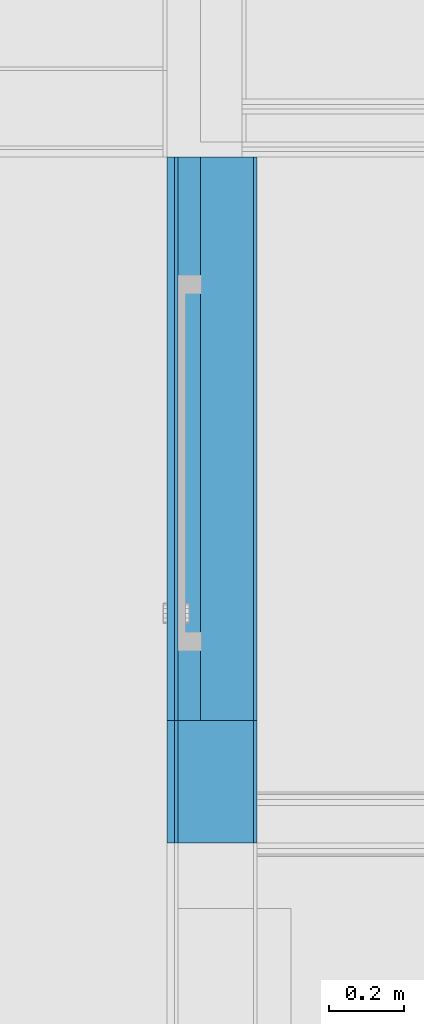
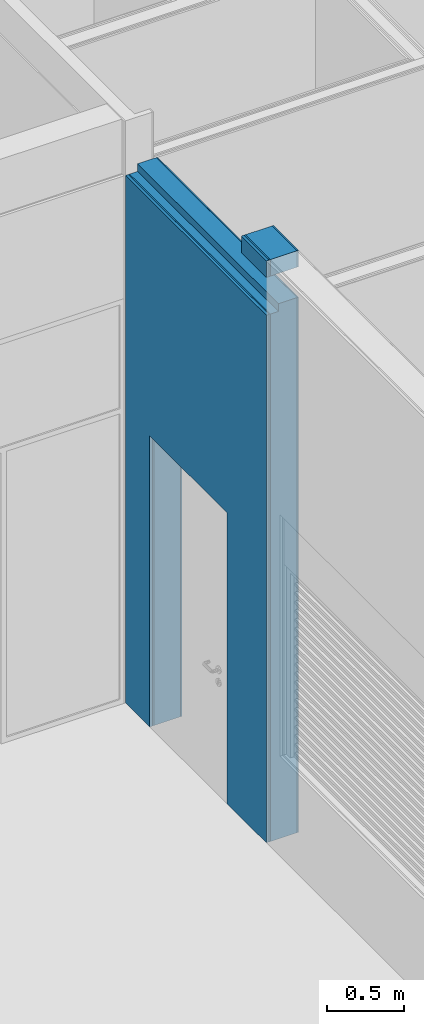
# One storey, part 188 of 260: 4 building element parts, 1 opening, 1 element without a shape of its own.
"""IFC2X3 building model written with IfcOpenShell, lengths in millimetres."""

from ifc_helpers import new_model, entity, si_unit, converted_unit, derived_unit, money_unit, direction, frame, origin_with_axes, place, context, subcontext, project, spatial, faceted_brep, material, type_object, element, aggregate, save


model = new_model("IFC2X3")

# Units and contexts
model_context = context("Model", 3, precision=0.01, world=origin_with_axes(), true_north=direction((0.0, 1.0)))
body_context = subcontext(model_context, "Body", "Model", "MODEL_VIEW")
ifc_project = project(units=[si_unit("LENGTHUNIT", "METRE", prefix="MILLI"), si_unit("AREAUNIT", "SQUARE_METRE"), si_unit("VOLUMEUNIT", "CUBIC_METRE"), converted_unit("PLANEANGLEUNIT", "DEGREE", entity("IfcPlaneAngleMeasure", 0.0174532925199), si_unit("PLANEANGLEUNIT", "RADIAN"), dimensions=[0, 0, 0, 0, 0, 0, 0]), money_unit("EUR"), converted_unit("TIMEUNIT", "Year", entity("IfcTimeMeasure", 31556926.0), si_unit("TIMEUNIT", "SECOND"), dimensions=[0, 0, 1, 0, 0, 0, 0]), si_unit("MASSUNIT", "GRAM", prefix="KILO"), si_unit("THERMODYNAMICTEMPERATUREUNIT", "DEGREE_CELSIUS"), si_unit("LUMINOUSINTENSITYUNIT", "LUMEN"), si_unit("ENERGYUNIT", "JOULE", prefix="MEGA"), derived_unit("THERMALCONDUCTANCEUNIT", [(si_unit("POWERUNIT", "WATT"), 1), (si_unit("LENGTHUNIT", "METRE"), -1), (si_unit("THERMODYNAMICTEMPERATUREUNIT", "KELVIN"), -1)]), derived_unit("SPECIFICHEATCAPACITYUNIT", [(si_unit("ENERGYUNIT", "JOULE"), 1), (si_unit("MASSUNIT", "GRAM", prefix="KILO"), -1), (si_unit("THERMODYNAMICTEMPERATUREUNIT", "KELVIN"), -1)]), derived_unit("MASSDENSITYUNIT", [(si_unit("MASSUNIT", "GRAM", prefix="KILO"), 1), (si_unit("VOLUMEUNIT", "CUBIC_METRE"), -1)])], contexts=[model_context])

# Site, building, storey
site_placement = place(None, origin_with_axes())
site = spatial("IfcSite", under=ifc_project, at=site_placement, Name="Kolde pst 67a", CompositionType="ELEMENT")
building_placement = place(site_placement, origin_with_axes())
building = spatial("IfcBuilding", under=site, at=building_placement, Name="Riigigümnaasium", CompositionType="ELEMENT")
storey_placement = place(building_placement, origin_with_axes())
storey = spatial("IfcBuildingStorey", under=building, at=storey_placement, Name="1. korrus", CompositionType="ELEMENT", Elevation=0.0)

# Wall, opening, building element parts
wall_type = type_object("IfcWallType", Name="SS-RB-20/3_+krohv+dold 240", PredefinedType="NOTDEFINED")
wall_placement = place(storey_placement, frame((52829.9941222, 52580.0001843, 0.0), z_axis=(0.0, 0.0, 1.0), x_axis=(0.0, -1.0, 0.0)))
wall = element("IfcWall", 1, at=wall_placement, inside=storey, type_object=wall_type, Name="Sisesein")
opening_placement = place(wall_placement, frame((814.049788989, 0.0, 0.0), z_axis=(0.0, 0.0, 1.0), x_axis=(1.0, 0.0, 0.0)))
element("IfcOpeningElement", 2, at=opening_placement, cuts=wall, Name="Siseuks", context=body_context, shape_type="Brep", body=[
    faceted_brep([(-500.0, 240.0, 2300.0), (-500.0, 240.0, 0.0), (-500.0, -480.0, 0.0), (-500.0, -480.0, 2300.0), (500.0, 240.0, 2300.0), (500.0, 240.0, 0.0), (500.0, -480.0, 0.0), (500.0, -480.0, 2300.0)], [[[0, 1, 2, 3]], [[0, 4, 5, 1]], [[1, 5, 6, 2]], [[3, 2, 6, 7]], [[4, 0, 3, 7]], [[5, 4, 7, 6]]]),
])
ifc_material_1 = material(Name="_VIIMISTLUSKIHT - viimistlus vastavalt SA osale")
building_element_part_1_placement = place(wall_placement, origin_with_axes())
building_element_part_1 = element("IfcBuildingElementPart", 3, at=building_element_part_1_placement, material=ifc_material_1, Name="_VIIMISTLUSKIHT - viimistlus vastavalt SA osale", context=body_context, shape_type="Brep", body=[
    faceted_brep([(1824.99980569, 0.0, 4470.0), (1684.99980569, 0.0, 4470.0), (1684.99980569, 0.0, 4597.0), (1500.0, 0.0, 4597.0), (1500.0, 0.0, 4600.0), (1824.99980569, 0.0, 4600.0), (1684.99980569, -10.0, 4470.0), (1824.99980569, -10.0, 4470.0), (1684.99980569, -10.0, 4597.0), (1500.0, -10.0, 4597.0), (1500.0, -10.0, 4600.0), (1824.99980569, -10.0, 4600.0)], [[[0, 1, 2, 3, 4, 5]], [[6, 1, 0, 7]], [[1, 6, 8, 2]], [[9, 3, 2, 8]], [[3, 9, 10, 4]], [[4, 10, 11, 5]], [[7, 0, 5, 11]], [[6, 7, 11, 10, 9, 8]]]),
    faceted_brep([(0.0, -10.0, 4230.0), (0.0, 0.0, 4230.0), (0.0, 0.0, 0.0), (0.0, -10.0, 0.0), (1824.99980569, 0.0, 4230.0), (1824.99980569, -10.0, 4230.0), (1824.99980569, 0.0, 0.0), (1314.04978899, 0.0, 0.0), (1314.04978899, 0.0, 2300.0), (314.049788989, 0.0, 2300.0), (314.049788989, 0.0, 0.0), (314.049788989, -10.0, 0.0), (314.049788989, -10.0, 2300.0), (1314.04978899, -10.0, 2300.0), (1314.04978899, -10.0, 0.0), (1824.99980569, -10.0, 0.0)], [[[0, 1, 2, 3]], [[4, 1, 0, 5]], [[1, 4, 6, 7, 8, 9, 10, 2]], [[3, 2, 10, 11]], [[5, 0, 3, 11, 12, 13, 14, 15]], [[4, 5, 15, 6]], [[6, 15, 14, 7]], [[14, 13, 8, 7]], [[13, 12, 9, 8]], [[12, 11, 10, 9]]]),
])
ifc_material_2 = material(Name="_KANDETARIND - monteeritav raudbetoon vastavalt EK osale")
building_element_part_2_placement = place(wall_placement, origin_with_axes())
building_element_part_2 = element("IfcBuildingElementPart", 4, at=building_element_part_2_placement, material=ifc_material_2, Name="_KANDETARIND - monteeritav raudbetoon vastavalt EK osale", context=body_context, shape_type="Brep", body=[
    faceted_brep([(1824.99980569, -10.0, 4470.0), (1684.99980569, -10.0, 4470.0), (1684.99980569, -10.0, 4597.0), (1500.0, -10.0, 4597.0), (1500.0, -10.0, 4600.0), (1824.99980569, -10.0, 4600.0), (1500.0, -149.999999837, 4470.0), (1500.0, -80.0, 4470.0), (1684.99980569, -80.0, 4470.0), (1824.99980569, -149.999999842, 4470.0), (1824.99980569, -210.0, 4470.0), (1500.0, -210.0, 4470.0), (1684.99980569, -80.0, 4597.0), (1500.0, -80.0, 4597.0), (1500.0, -210.0, 4600.0), (1824.99980569, -210.0, 4600.0)], [[[0, 1, 2, 3, 4, 5]], [[6, 7, 8, 1, 0, 9, 10, 11]], [[1, 8, 12, 2]], [[13, 3, 2, 12]], [[7, 6, 11, 14, 4, 3, 13]], [[4, 14, 15, 5]], [[9, 0, 5, 15, 10]], [[8, 7, 13, 12]], [[14, 11, 10, 15]]]),
    faceted_brep([(0.0, -149.999999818, 4230.0), (0.0, -10.0, 4230.0), (0.0, -10.0, 0.0), (0.0, -210.0, 0.0), (0.0, -210.0, 4170.0), (0.0, -149.999999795, 4170.0), (1824.99980569, -10.0, 4230.0), (1824.99980569, -149.999999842, 4230.0), (1824.99980569, -10.0, 0.0), (1314.04978899, -10.0, 0.0), (1314.04978899, -10.0, 2300.0), (314.049788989, -10.0, 2300.0), (314.049788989, -10.0, 0.0), (314.049788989, -210.0, 0.0), (1824.99980569, -210.0, 0.0), (1824.99980569, -210.0, 4170.0), (314.049788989, -210.0, 2300.0), (1314.04978899, -210.0, 2300.0), (1314.04978899, -210.0, 0.0), (1824.99980569, -149.99999847, 4170.0)], [[[0, 1, 2, 3, 4, 5]], [[6, 1, 0, 7]], [[1, 6, 8, 9, 10, 11, 12, 2]], [[13, 3, 2, 12]], [[14, 15, 4, 3, 13, 16, 17, 18]], [[19, 5, 4, 15]], [[7, 0, 5, 19]], [[6, 7, 19, 15, 14, 8]], [[9, 8, 14, 18]], [[9, 18, 17, 10]], [[10, 17, 16, 11]], [[11, 16, 13, 12]]]),
])
ifc_material_3 = material(Name="_KARKASS - eriprofiilkinnitus vastavalt sisemisele plaatviimistlusele")
building_element_part_3_placement = place(wall_placement, origin_with_axes())
building_element_part_3 = element("IfcBuildingElementPart", 5, at=building_element_part_3_placement, material=ifc_material_3, Name="_KARKASS - eriprofiilkinnitus vastavalt sisemisele plaatviimistlusele", context=body_context, shape_type="Brep", body=[
    faceted_brep([(1824.99980569, -210.0, 4470.0), (1500.0, -210.0, 4470.0), (1500.0, -210.0, 4600.0), (1824.99980569, -210.0, 4600.0), (1500.0, -220.0, 4470.0), (1824.99980569, -220.0, 4470.0), (1500.0, -220.0, 4600.0), (1824.99980569, -220.0, 4600.0)], [[[0, 1, 2, 3]], [[4, 1, 0, 5]], [[1, 4, 6, 2]], [[2, 6, 7, 3]], [[5, 0, 3, 7]], [[4, 5, 7, 6]]]),
    faceted_brep([(0.0, -220.0, 4170.0), (0.0, -210.0, 4170.0), (0.0, -210.0, 0.0), (0.0, -220.0, 0.0), (1824.99980569, -210.0, 4170.0), (1824.99980569, -220.0, 4170.0), (1824.99980569, -210.0, 0.0), (1314.04978899, -210.0, 0.0), (1314.04978899, -210.0, 2300.0), (314.049788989, -210.0, 2300.0), (314.049788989, -210.0, 0.0), (314.049788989, -220.0, 0.0), (314.049788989, -220.0, 2300.0), (1314.04978899, -220.0, 2300.0), (1314.04978899, -220.0, 0.0), (1824.99980569, -220.0, 0.0)], [[[0, 1, 2, 3]], [[4, 1, 0, 5]], [[1, 4, 6, 7, 8, 9, 10, 2]], [[3, 2, 10, 11]], [[5, 0, 3, 11, 12, 13, 14, 15]], [[4, 5, 15, 6]], [[6, 15, 14, 7]], [[14, 13, 8, 7]], [[13, 12, 9, 8]], [[12, 11, 10, 9]]]),
])
building_element_part_4_placement = place(wall_placement, origin_with_axes())
building_element_part_4 = element("IfcBuildingElementPart", 6, at=building_element_part_4_placement, material=ifc_material_1, Name="_VIIMISTLUSKIHT - viimistlus vastavalt SA osale", context=body_context, shape_type="Brep", body=[
    faceted_brep([(1824.99980569, -220.0, 4470.0), (1500.0, -220.0, 4470.0), (1500.0, -220.0, 4600.0), (1824.99980569, -220.0, 4600.0), (1500.0, -240.0, 4470.0), (1824.99980569, -240.0, 4470.0), (1500.0, -240.0, 4600.0), (1824.99980569, -240.0, 4600.0)], [[[0, 1, 2, 3]], [[4, 1, 0, 5]], [[1, 4, 6, 2]], [[2, 6, 7, 3]], [[5, 0, 3, 7]], [[4, 5, 7, 6]]]),
    faceted_brep([(0.0, -240.0, 4170.0), (0.0, -220.0, 4170.0), (0.0, -220.0, 0.0), (0.0, -240.0, 0.0), (1824.99980569, -220.0, 4170.0), (1824.99980569, -240.0, 4170.0), (1824.99980569, -220.0, 0.0), (1314.04978899, -220.0, 0.0), (1314.04978899, -220.0, 2300.0), (314.049788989, -220.0, 2300.0), (314.049788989, -220.0, 0.0), (314.049788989, -240.0, 0.0), (314.049788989, -240.0, 2300.0), (1314.04978899, -240.0, 2300.0), (1314.04978899, -240.0, 0.0), (1824.99980569, -240.0, 0.0)], [[[0, 1, 2, 3]], [[4, 1, 0, 5]], [[1, 4, 6, 7, 8, 9, 10, 2]], [[3, 2, 10, 11]], [[5, 0, 3, 11, 12, 13, 14, 15]], [[4, 5, 15, 6]], [[6, 15, 14, 7]], [[14, 13, 8, 7]], [[13, 12, 9, 8]], [[12, 11, 10, 9]]]),
])
aggregate(wall, [building_element_part_1, building_element_part_2, building_element_part_3, building_element_part_4])

save(model, "model.ifc")
